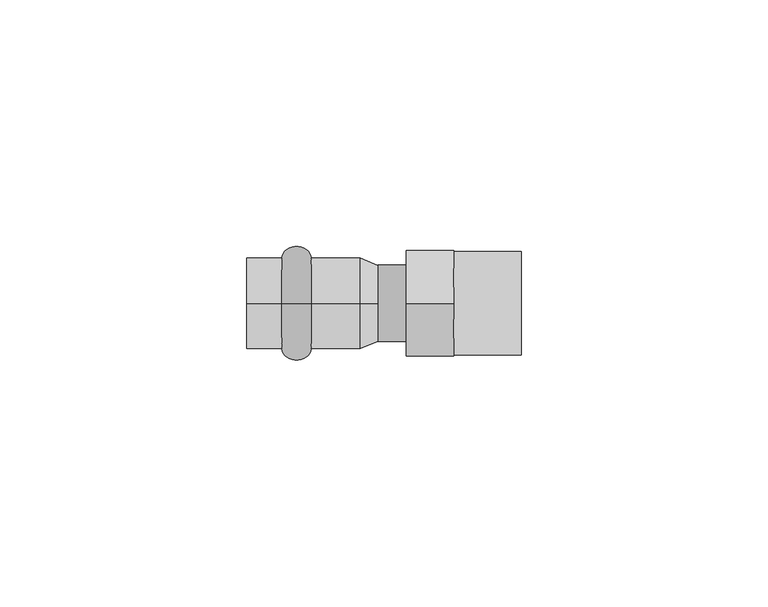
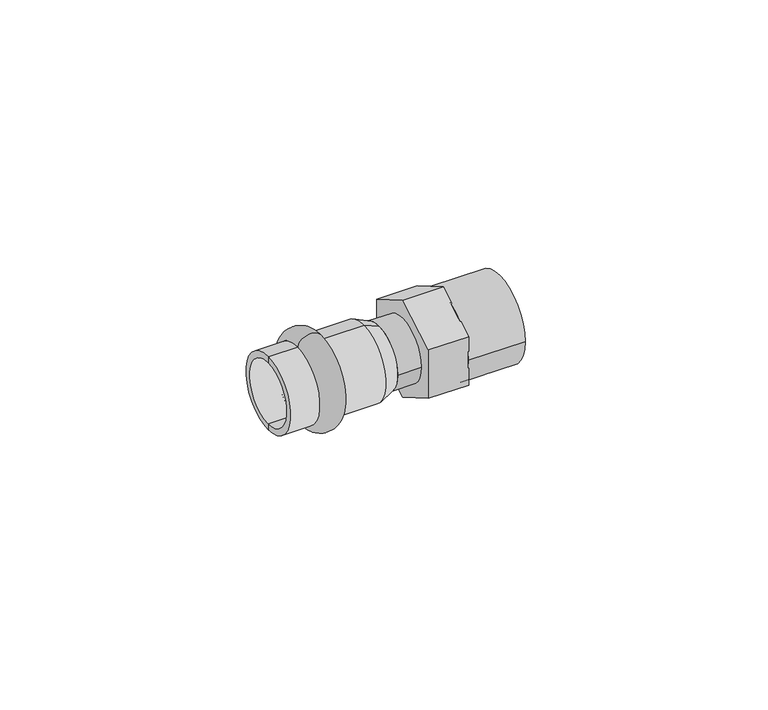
"""IFC4 building model written with IfcOpenShell, lengths in millimetres: pipe fitting geometry."""

from ifc_helpers import new_model, si_unit, point, frame, origin, origin_2d, place, context, project, spatial, polyline, circle_curve, ellipse_curve, trimmed, segment, composite_curve, outline, extrude, source, transform, mapped, element, save
from ifc_brep_helpers import plane_surface, cylinder_surface, revolved_surface, advanced_brep


def pipe_fitting_88be18e5(model_context):
    return source(origin(), model_context, "Body", "SolidModel", [
        advanced_brep(
        [(-15.9, 0.0, 9.25), (-15.9, 0.0, -9.25), (-10.0, 0.0, -9.25), (-10.0, 0.0, 9.25)],
        [
            (0, 1, circle_curve(frame((-15.9, 0.0, 0.0), z_axis=(-1.0, 0.0, 0.0), x_axis=(0.0, 0.0, -1.0)), 9.25)),
            (1, 2),
            (2, 3, circle_curve(frame((-10.0, 0.0, 0.0), z_axis=(1.0, 0.0, 0.0), x_axis=(0.0, 0.0, -1.0)), 9.25)),
            (3, 0),
            (1, 0, circle_curve(frame((-15.9, 0.0, 0.0), z_axis=(-1.0, 0.0, 0.0), x_axis=(0.0, 0.0, -1.0)), 9.25)),
            (3, 2, circle_curve(frame((-10.0, 0.0, 0.0), z_axis=(1.0, 0.0, 0.0), x_axis=(0.0, 0.0, -1.0)), 9.25)),
            (2, 1, ellipse_curve(frame((-12.95, 0.0, -9.25), z_axis=(0.0, 1.0, 0.0), x_axis=(-1.0, 0.0, 0.0)), 2.95, 2.3)),
            (0, 3, ellipse_curve(frame((-12.95, 0.0, 9.25), z_axis=(0.0, 1.0, 0.0), x_axis=(-1.0, 0.0, 0.0)), 2.95, 2.3)),
        ],
        [
            revolved_surface(polyline([(-10.0, 0.0, -9.25), (-15.899999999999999, 0.0, -9.25)]), (3.0, 0.0, 0.0), (1.0, 0.0, 0.0)),
            revolved_surface(trimmed(ellipse_curve(frame((-12.95, 0.0, -9.25), z_axis=(0.0, -1.0, 0.0), x_axis=(-1.0, 0.0, 0.0)), 2.95, 2.3), [point((-15.9, 0.0, -9.25))], [point((-10.0, 0.0, -9.25))], True, "CARTESIAN"), (3.0, 0.0, 0.0), (1.0, 0.0, 0.0)),
        ],
        [
            (0, [[1, 2, 3, 4]]),
            (0, [[5, -4, 6, -2]]),
            (1, [[-3, 7, -1, 8]]),
            (1, [[-6, -8, -5, -7]]),
        ],
    ),
        advanced_brep(
        [(3.5337785, 0.0, 7.75), (3.5337785, 0.0, -7.75), (0.0, 0.0, -9.25), (0.0, 0.0, 9.25), (-23.0, 0.0, 7.75), (-23.0, 0.0, -7.75), (-23.0, 0.0, 9.25), (-23.0, 0.0, -9.25)],
        [
            (0, 1, circle_curve(frame((3.5337785, 0.0, 0.0), z_axis=(-1.0, 0.0, 0.0), x_axis=(0.0, 0.0, -1.0)), 7.75)),
            (1, 2),
            (2, 3, circle_curve(frame((0.0, 0.0, 0.0), z_axis=(1.0, 0.0, 0.0), x_axis=(0.0, 0.0, -1.0)), 9.25)),
            (3, 0),
            (1, 0, circle_curve(frame((3.5337785, 0.0, 0.0), z_axis=(-1.0, 0.0, 0.0), x_axis=(0.0, 0.0, -1.0)), 7.75)),
            (3, 2, circle_curve(frame((0.0, 0.0, 0.0), z_axis=(1.0, 0.0, 0.0), x_axis=(0.0, 0.0, -1.0)), 9.25)),
            (4, 5, circle_curve(frame((-23.0, 0.0, 0.0), z_axis=(-1.0, 0.0, 0.0), x_axis=(0.0, 0.0, -1.0)), 7.75)),
            (5, 1),
            (0, 4),
            (5, 4, circle_curve(frame((-23.0, 0.0, 0.0), z_axis=(-1.0, 0.0, 0.0), x_axis=(0.0, 0.0, -1.0)), 7.75)),
            (6, 7, circle_curve(frame((-23.0, 0.0, 0.0), z_axis=(-1.0, 0.0, 0.0), x_axis=(0.0, 0.0, -1.0)), 9.25)),
            (7, 5),
            (4, 6),
            (7, 6, circle_curve(frame((-23.0, 0.0, 0.0), z_axis=(-1.0, 0.0, 0.0), x_axis=(0.0, 0.0, -1.0)), 9.25)),
            (2, 7),
            (6, 3),
        ],
        [
            revolved_surface(polyline([(0.0, 0.0, -9.25), (3.5337785, 0.0, -7.75)]), (3.0, 0.0, 0.0), (1.0, 0.0, 0.0)),
            revolved_surface(polyline([(3.5337785, 0.0, -7.75), (-23.0, 0.0, -7.75)]), (3.0, 0.0, 0.0), (1.0, 0.0, 0.0)),
            plane_surface(frame((-23.0, 0.0, 0.0), z_axis=(-1.0, 0.0, 0.0), x_axis=(0.0, 0.0, -1.0))),
            cylinder_surface(frame((3.0, 0.0, 0.0), z_axis=(1.0, 0.0, 0.0), x_axis=(0.0, 0.0, -1.0)), 9.25),
        ],
        [
            (0, [[1, 2, 3, 4]]),
            (0, [[5, -4, 6, -2]]),
            (1, [[7, 8, -1, 9]]),
            (1, [[10, -9, -5, -8]]),
            (2, [[11, 12, -7, 13]]),
            (2, [[14, -13, -10, -12]]),
            (3, [[-3, 15, -11, 16]]),
            (3, [[-6, -16, -14, -15]]),
        ],
    ),
        extrude(outline(composite_curve([segment(trimmed(circle_curve(origin_2d(), 10.5), [point((-10.5, 0.0))], [point((10.5, 0.0))], False, "CARTESIAN"), True, "CONTINUOUS"), segment(trimmed(circle_curve(origin_2d(), 10.5), [point((10.5, 0.0))], [point((-10.5, 0.0))], False, "CARTESIAN"), True, "CONTINUOUS")], self_intersect=False)), frame((18.9337785, 0.0, 0.0), z_axis=(1.0, 0.0, 0.0), x_axis=(0.0, 1.0, 0.0)), (0.0, 0.0, 1.0), 13.6),
        extrude(outline(composite_curve([segment(trimmed(circle_curve(origin_2d(), 7.75), [point((-7.75, 0.0))], [point((7.75, 0.0))], False, "CARTESIAN"), True, "CONTINUOUS"), segment(trimmed(circle_curve(origin_2d(), 7.75), [point((7.75, 0.0))], [point((-7.75, 0.0))], False, "CARTESIAN"), True, "CONTINUOUS")], self_intersect=False)), frame((3.5337785, 0.0, 0.0), z_axis=(1.0, 0.0, 0.0), x_axis=(0.0, 1.0, 0.0)), (0.0, 0.0, 1.0), 5.7),
        extrude(outline(polyline([(-10.65, 6.1487804), (0.0, 12.2975607), (10.65, 6.1487804), (10.65, -6.1487804), (0.0, -12.2975607), (-10.65, -6.1487804), (-10.65, 6.1487804)]), holes=[polyline([(0.0, -3.1754265), (2.75, -1.5877132), (2.75, 1.5877132), (0.0, 3.1754265), (-2.75, 1.5877132), (-2.75, -1.5877132), (0.0, -3.1754265)])]), frame((9.2337785, 0.0, 0.0), z_axis=(1.0, 0.0, 0.0), x_axis=(0.0, 1.0, 0.0)), (0.0, 0.0, 1.0), 9.7),
    ])


if __name__ == "__main__":
    model = new_model("IFC4")
    model_context = context("Model", 3, world=origin())
    ifc_project = project(units=[si_unit("LENGTHUNIT", "METRE", prefix="MILLI")], contexts=[model_context])
    site = spatial("IfcSite", under=ifc_project)
    building = spatial("IfcBuilding", under=site)
    placement = place(None, origin())
    pipe_fitting_shape = pipe_fitting_88be18e5(model_context)
    element("IfcPipeFitting", 1, ObjectType="РЕХАУ_Пресс Муфта НР : 15 x R 1/2\"", at=placement, inside=building, context=model_context, shape_type="MappedRepresentation", body=[
        mapped(pipe_fitting_shape, transform((0.0, 0.0, 0.0), x_axis=(1.0, 0.0, 0.0), y_axis=(0.0, 1.0, 0.0), z_axis=(0.0, 0.0, 1.0))),
    ])
    save(model, "model.ifc")
